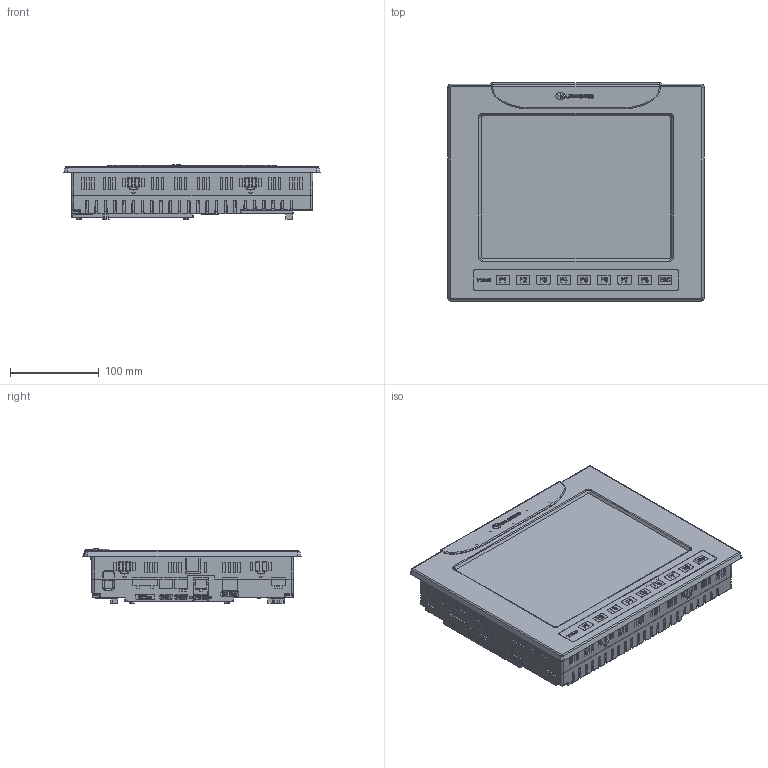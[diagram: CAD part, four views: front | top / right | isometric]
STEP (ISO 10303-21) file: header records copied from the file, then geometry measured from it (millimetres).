
FILE_DESCRIPTION (( 'STEP AP214' ), '1' );
FILE_NAME ('V1040-T20B1.STEP', '2011-03-22T11:48:14', ( 'Unitronics' ), ( 'Unitronics' ), 'SwSTEP 2.0', 'SolidWorks 2009', '' );
FILE_SCHEMA (( 'AUTOMOTIVE_DESIGN' ));
Length unit declared in the file: millimetre
Products named in the file (1): V1040-T20B1
Bounding box: 289 x 246 x 61.4 mm (x, y, z)
Volume: 3158120.4 mm3; surface area: 246574.3 mm2
Topology: 3 solids, 17 shells, 5973 faces, 15697 edges, 10155 vertices
Faces by surface type: plane 3762, bspline 945, cylinder 828, cone 359, torus 56, sphere 23
Entity records: 220744 total; most frequent: CARTESIAN_POINT 81277, ORIENTED_EDGE 31352, DIRECTION 24772, EDGE_CURVE 15676, VECTOR 11058, LINE 11058, VERTEX_POINT 10153, AXIS2_PLACEMENT_3D 6857
